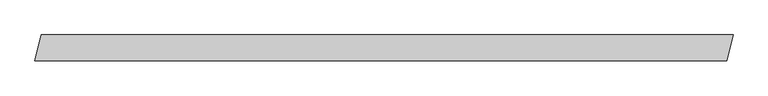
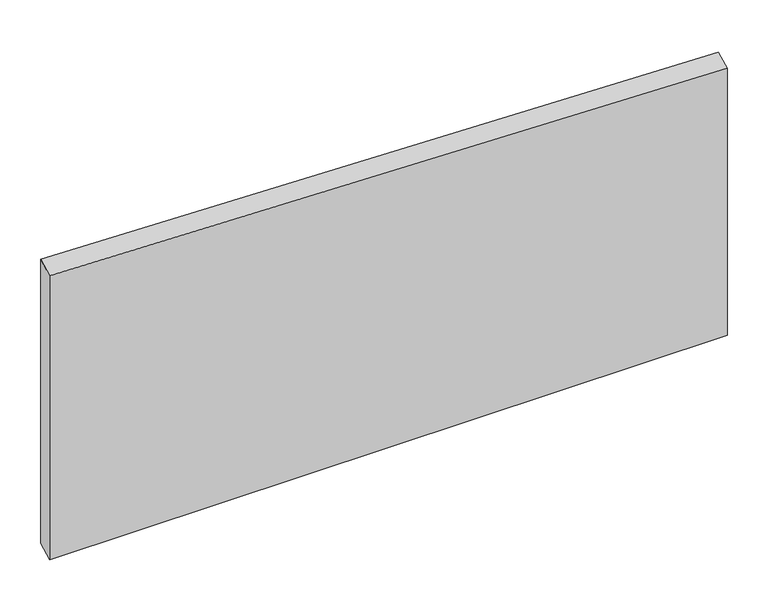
"""IFC4 building model written with IfcOpenShell, lengths in millimetres: proxy geometry, Piédroit E : piédroit E."""

import ifcopenshell
import ifcopenshell.guid

model = None  # the IFC model being written
_history = None  # IfcOwnerHistory: only IFC2X3 demands one
_inside = {}  # id of a spatial element -> (the spatial element, [elements in it])
_under = {}  # id of a project, library or spatial element -> (it, [spatial elements below it])
_declared = {}  # id of a project -> (the project, [libraries it declares])
_typed = {}  # id of a type object -> (the type object, [elements of that type])
_made_of = {}  # id of a material, layer set ... -> (it, [elements and type objects made of it])


def new_model(schema):
    """Start an empty IFC model of exactly this schema.

    Asked for "IFC4X3", IfcOpenShell would pick the latest addendum, in which some entities
    have other attributes; the version numbers below select the first issue.
    IFC2X3 requires an IfcOwnerHistory on every rooted entity: one is made here for all.
    """
    global model, _history
    if schema == "IFC4X3":
        model = ifcopenshell.file(schema_version=(4, 3, 0, 0))
    else:
        model = ifcopenshell.file(schema=schema)
    _inside.clear()
    _under.clear()
    _declared.clear()
    _typed.clear()
    _made_of.clear()
    _history = None
    if model.schema == "IFC2X3":
        org = make("IfcOrganization", Name="unknown")
        user = make(
            "IfcPersonAndOrganization",
            ThePerson=make("IfcPerson", FamilyName="unknown"),
            TheOrganization=org,
        )
        app = make(
            "IfcApplication",
            ApplicationDeveloper=org,
            Version="unknown",
            ApplicationFullName="unknown",
            ApplicationIdentifier="unknown",
        )
        _history = make(
            "IfcOwnerHistory",
            OwningUser=user,
            OwningApplication=app,
            ChangeAction="ADDED",
            CreationDate=0,
        )
    return model


def make(cls, **values):
    """One entity of the class cls with the attributes given. An attribute that is None is left unset."""
    return model.create_entity(
        cls, **{name: value for name, value in values.items() if value is not None}
    )


def rooted(cls, **values):
    """An entity with a GlobalId (a new one), such as an element, a storey or a relation."""
    return make(cls, GlobalId=ifcopenshell.guid.new(), OwnerHistory=_history, **values)


def si_unit(unit_type, name, prefix=None):
    """IfcSIUnit, for example si_unit("LENGTHUNIT", "METRE", prefix="MILLI")."""
    return make("IfcSIUnit", UnitType=unit_type, Prefix=prefix, Name=name)


def assignment(units):
    """IfcUnitAssignment: the units of a project."""
    return None if units is None else make("IfcUnitAssignment", Units=units)


def point(xyz):
    """IfcCartesianPoint."""
    return None if xyz is None else make("IfcCartesianPoint", Coordinates=xyz)


def direction(xyz):
    """IfcDirection."""
    return None if xyz is None else make("IfcDirection", DirectionRatios=xyz)


def frame(location, z_axis=None, x_axis=None):
    """IfcAxis2Placement3D, a coordinate frame: its origin and axes. An axis left out is left unset."""
    return make(
        "IfcAxis2Placement3D",
        Location=point(location),
        Axis=direction(z_axis),
        RefDirection=direction(x_axis),
    )


def origin():
    """The frame at (0, 0, 0) with its axes left unset."""
    return frame((0.0, 0.0, 0.0))


def place(relative_to, where):
    """IfcLocalPlacement: puts the frame where relative to a parent placement (None: the world)."""
    return make(
        "IfcLocalPlacement", PlacementRelTo=relative_to, RelativePlacement=where
    )


def context(
    kind, dimensions, precision=None, world=None, true_north=None, identifier=None
):
    """IfcGeometricRepresentationContext, for example the 3D "Model" context."""
    return make(
        "IfcGeometricRepresentationContext",
        ContextIdentifier=identifier,
        ContextType=kind,
        CoordinateSpaceDimension=dimensions,
        Precision=precision,
        WorldCoordinateSystem=world,
        TrueNorth=true_north,
    )


def project(units=None, contexts=None):
    """IfcProject with its units and contexts."""
    return rooted(
        "IfcProject",
        Name="project",
        RepresentationContexts=contexts,
        UnitsInContext=assignment(units),
    )


def spatial(cls, under=None, at=None, **own):
    """A site, building, storey or space (cls), placed at a placement, below another one or the project."""
    s = rooted(cls, ObjectPlacement=at, **own)
    if under is not None:
        _under.setdefault(under.id(), (under, []))[1].append(s)
    return s


def faces_of(points, faces, orient=None, outer=None):
    """IfcFace entities. A face is a list of loops; a loop is a list of indices into points, from 0.

    orient and outer hold one flag for each loop. By default every Orientation is true, the
    first loop of a face is its IfcFaceOuterBound and the others are IfcFaceBound.
    """
    made = []
    for i, loops in enumerate(faces):
        bounds = []
        for j, loop in enumerate(loops):
            is_outer = j == 0 if outer is None else outer[i][j]
            bounds.append(
                make(
                    "IfcFaceOuterBound" if is_outer else "IfcFaceBound",
                    Bound=make("IfcPolyLoop", Polygon=[points[k] for k in loop]),
                    Orientation=True if orient is None else orient[i][j],
                )
            )
        made.append(make("IfcFace", Bounds=bounds))
    return made


def faceted_brep(points, faces, orient=None, outer=None, voids=None):
    """IfcFacetedBrep: a solid bounded by flat faces; with voids (closed shells), ...WithVoids."""
    shared = [point(p) for p in points]
    hull = make("IfcClosedShell", CfsFaces=faces_of(shared, faces, orient, outer))
    if voids is None:
        return make("IfcFacetedBrep", Outer=hull)
    return make(
        "IfcFacetedBrepWithVoids",
        Outer=hull,
        Voids=[
            make(cls, CfsFaces=faces_of(shared, fs, o, b)) for cls, fs, o, b in voids
        ],
    )


def shape(context_of_items, identifier, shape_type, items):
    """IfcShapeRepresentation: the items that make up one representation, for example the "Body"."""
    return make(
        "IfcShapeRepresentation",
        ContextOfItems=context_of_items,
        RepresentationIdentifier=identifier,
        RepresentationType=shape_type,
        Items=items,
    )


def source(mapping_origin, context_of_items, identifier, shape_type, items):
    """IfcRepresentationMap: a shape defined once, which mapped items show again and again."""
    return make(
        "IfcRepresentationMap",
        MappingOrigin=mapping_origin,
        MappedRepresentation=shape(context_of_items, identifier, shape_type, items),
    )


def transform(
    local_origin,
    x_axis=None,
    y_axis=None,
    z_axis=None,
    scale=None,
    scale2=None,
    scale3=None,
    uniform=True,
):
    """IfcCartesianTransformationOperator3D, or its non-uniform kind. x_axis, y_axis, z_axis: its Axis1, 2, 3."""
    if uniform:
        return make(
            "IfcCartesianTransformationOperator3D",
            Axis1=direction(x_axis),
            Axis2=direction(y_axis),
            LocalOrigin=point(local_origin),
            Scale=scale,
            Axis3=direction(z_axis),
        )
    return make(
        "IfcCartesianTransformationOperator3DnonUniform",
        Axis1=direction(x_axis),
        Axis2=direction(y_axis),
        LocalOrigin=point(local_origin),
        Scale=scale,
        Axis3=direction(z_axis),
        Scale2=scale2,
        Scale3=scale3,
    )


def mapped(mapping_source, mapping_target):
    """IfcMappedItem: shows the shape of a source again, moved by a transform."""
    return make(
        "IfcMappedItem", MappingSource=mapping_source, MappingTarget=mapping_target
    )


def made_of(thing, what):
    """Note that an element or type object is made of a material, layer set ...; save() writes the relation."""
    if what is not None:
        _made_of.setdefault(what.id(), (what, []))[1].append(thing)
    return thing


def element(
    cls,
    number,
    at=None,
    inside=None,
    cuts=None,
    type_object=None,
    material=None,
    context=None,
    identifier="Body",
    shape_type=None,
    held_by="IfcProductDefinitionShape",
    body=None,
    shapes=None,
    **own,
):
    """One element of the class cls, such as IfcWall. Its Tag is "e" and its number.

    at: its placement. inside: the storey or other place that contains it. cuts: it is an
    opening in that element (IfcRelVoidsElement). A single representation is given by context,
    identifier, shape_type and body (its items); several are given by shapes. held_by: the class
    of the entity that holds the representations. save() writes the other relations.
    """
    e = rooted(cls, Tag="e%d" % number, ObjectPlacement=at, **own)
    if body is not None:
        shapes = [shape(context, identifier, shape_type, body)]
    if shapes is not None:
        e.Representation = make(held_by, Representations=shapes)
    if inside is not None:
        _inside.setdefault(inside.id(), (inside, []))[1].append(e)
    if cuts is not None:
        rooted(
            "IfcRelVoidsElement", RelatingBuildingElement=cuts, RelatedOpeningElement=e
        )
    if type_object is not None:
        _typed.setdefault(type_object.id(), (type_object, []))[1].append(e)
    return made_of(e, material)


def aggregate(whole, parts):
    """IfcRelAggregates: a whole, such as a stair, and the parts it consists of."""
    return rooted("IfcRelAggregates", RelatingObject=whole, RelatedObjects=parts)


def save(model, path):
    """Write the relations noted so far, then the file.

    IfcRelAggregates (storeys below a building ...), IfcRelContainedInSpatialStructure (elements
    in a storey), IfcRelDefinesByType, IfcRelAssociatesMaterial and IfcRelDeclares: one each for
    every whole, place, type object, material and project.
    """
    for whole, parts in _under.values():
        aggregate(whole, parts)
    for where, things in _inside.values():
        rooted(
            "IfcRelContainedInSpatialStructure",
            RelatedElements=things,
            RelatingStructure=where,
        )
    for kind, things in _typed.values():
        rooted("IfcRelDefinesByType", RelatedObjects=things, RelatingType=kind)
    for what, things in _made_of.values():
        rooted("IfcRelAssociatesMaterial", RelatedObjects=things, RelatingMaterial=what)
    for by, libraries in _declared.values():
        rooted("IfcRelDeclares", RelatingContext=by, RelatedDefinitions=libraries)
    model.write(path)


def generic_models_a67ef40e(model_context):
    return source(origin(), model_context, "Body", "Brep", [
        faceted_brep([(4653.6345839, -2900.0, 5654.0285663), (4653.6345839, -2900.0, 1200.0), (4749.1678281, -2500.0, 1200.0), (4749.1678281, -2500.0, 5651.4938536), (-6038.8666255, -2900.0, 5937.7247677), (-5943.3333812, -2500.0, 5935.190055), (-5943.3333812, -2500.0, 1200.0), (-6038.8666255, -2900.0, 1200.0)], [[[0, 1, 2, 3]], [[4, 5, 6, 7]], [[4, 7, 1, 0]], [[7, 6, 2, 1]], [[6, 5, 3, 2]], [[5, 4, 0, 3]]]),
    ])


if __name__ == "__main__":
    model = new_model("IFC4")
    model_context = context("Model", 3, world=origin())
    ifc_project = project(units=[si_unit("LENGTHUNIT", "METRE", prefix="MILLI")], contexts=[model_context])
    site = spatial("IfcSite", under=ifc_project)
    building = spatial("IfcBuilding", under=site)
    placement = place(None, origin())
    generic_models_shape = generic_models_a67ef40e(model_context)
    element("IfcBuildingElementProxy", 1, Name="Piédroit E : piédroit E", ObjectType="Piédroit E : piédroit E", at=placement, inside=building, context=model_context, shape_type="MappedRepresentation", body=[
        mapped(generic_models_shape, transform((0.0, 0.0, 0.0), x_axis=(1.0, 0.0, 0.0), y_axis=(0.0, 1.0, 0.0), z_axis=(0.0, 0.0, 1.0))),
    ])
    save(model, "model.ifc")
